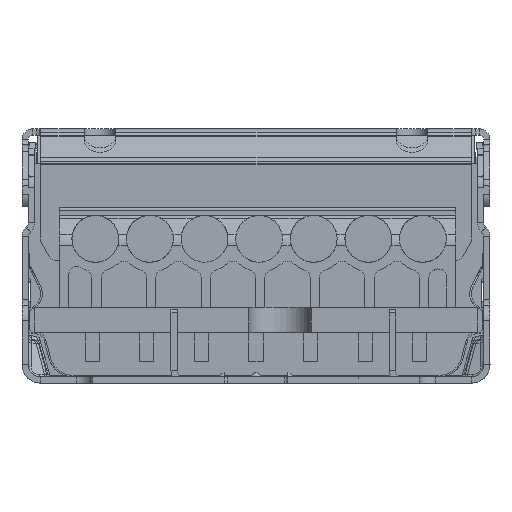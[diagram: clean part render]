
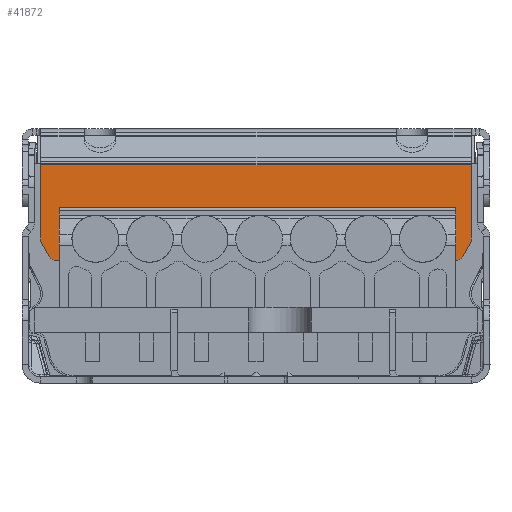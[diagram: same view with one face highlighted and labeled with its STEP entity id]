
A CAD part, left-side view. The second image highlights one B-rep face of the part: STEP entity #41872.
In plain terms, the highlighted planar face has unit normal (-1, 0, 0).
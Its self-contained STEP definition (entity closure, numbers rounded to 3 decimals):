
#7956=CARTESIAN_POINT('',(23.367,-9.8,7.941));
#7957=DIRECTION('',(1.,0.,0.));
#7958=DIRECTION('',(0.,0.,1.));
#7959=AXIS2_PLACEMENT_3D('',#7956,#7957,#7958);
#7978=CARTESIAN_POINT('',(23.367,-5.2,7.941));
#7979=DIRECTION('',(1.,0.,0.));
#7980=DIRECTION('',(0.,1.,0.));
#7981=AXIS2_PLACEMENT_3D('',#7978,#7979,#7980);
#8016=CARTESIAN_POINT('',(23.367,5.2,7.941));
#8017=DIRECTION('',(1.,0.,0.));
#8018=DIRECTION('',(0.,0.,1.));
#8019=AXIS2_PLACEMENT_3D('',#8016,#8017,#8018);
#8038=CARTESIAN_POINT('',(23.367,9.8,7.941));
#8039=DIRECTION('',(1.,0.,0.));
#8040=DIRECTION('',(0.,1.,0.));
#8041=AXIS2_PLACEMENT_3D('',#8038,#8039,#8040);
#8093=DIRECTION('',(0.,-1.,0.));
#8094=VECTOR('',#8093,4.6);
#8095=CARTESIAN_POINT('',(23.367,-5.2,8.141));
#8096=LINE('',#8095,#8094);
#8097=DIRECTION('',(0.,0.,1.));
#8098=VECTOR('',#8097,0.1);
#8099=CARTESIAN_POINT('',(23.367,-5.,7.841));
#8100=LINE('',#8099,#8098);
#8101=DIRECTION('',(0.,-1.,0.));
#8102=VECTOR('',#8101,10.);
#8103=CARTESIAN_POINT('',(23.367,5.,7.841));
#8104=LINE('',#8103,#8102);
#8105=DIRECTION('',(0.,0.,1.));
#8106=VECTOR('',#8105,0.1);
#8107=CARTESIAN_POINT('',(23.367,5.,7.841));
#8108=LINE('',#8107,#8106);
#8109=DIRECTION('',(0.,-1.,0.));
#8110=VECTOR('',#8109,4.6);
#8111=CARTESIAN_POINT('',(23.367,9.8,8.141));
#8112=LINE('',#8111,#8110);
#8113=DIRECTION('',(0.,0.,1.));
#8114=VECTOR('',#8113,0.1);
#8115=CARTESIAN_POINT('',(23.367,10.,7.841));
#8116=LINE('',#8115,#8114);
#8117=DIRECTION('',(0.,-1.,0.));
#8118=VECTOR('',#8117,2.819);
#8119=CARTESIAN_POINT('',(23.367,12.819,7.841));
#8120=LINE('',#8119,#8118);
#8121=CARTESIAN_POINT('',(23.367,12.819,8.341));
#8122=DIRECTION('',(-1.,0.,0.));
#8123=DIRECTION('',(0.,0.866,-0.5));
#8124=AXIS2_PLACEMENT_3D('',#8121,#8122,#8123);
#8126=DIRECTION('',(0.,-0.5,-0.866));
#8127=VECTOR('',#8126,0.963);
#8128=CARTESIAN_POINT('',(23.367,13.733,8.925));
#8129=LINE('',#8128,#8127);
#8130=CARTESIAN_POINT('',(23.367,13.3,9.175));
#8131=DIRECTION('',(-1.,0.,0.));
#8132=DIRECTION('',(0.,1.,0.));
#8133=AXIS2_PLACEMENT_3D('',#8130,#8131,#8132);
#8135=DIRECTION('',(0.,0.,-1.));
#8136=VECTOR('',#8135,4.817);
#8137=CARTESIAN_POINT('',(23.367,13.8,13.993));
#8138=LINE('',#8137,#8136);
#8139=DIRECTION('',(0.,0.,1.));
#8140=VECTOR('',#8139,4.817);
#8141=CARTESIAN_POINT('',(23.367,-13.8,9.175));
#8142=LINE('',#8141,#8140);
#8143=CARTESIAN_POINT('',(23.367,-13.3,9.175));
#8144=DIRECTION('',(-1.,0.,0.));
#8145=DIRECTION('',(0.,-0.866,-0.5));
#8146=AXIS2_PLACEMENT_3D('',#8143,#8144,#8145);
#8148=DIRECTION('',(0.,-0.5,0.866));
#8149=VECTOR('',#8148,0.963);
#8150=CARTESIAN_POINT('',(23.367,-13.252,8.091));
#8151=LINE('',#8150,#8149);
#8152=CARTESIAN_POINT('',(23.367,-12.819,8.341));
#8153=DIRECTION('',(-1.,0.,0.));
#8154=DIRECTION('',(0.,0.,-1.));
#8155=AXIS2_PLACEMENT_3D('',#8152,#8153,#8154);
#8157=DIRECTION('',(0.,-1.,0.));
#8158=VECTOR('',#8157,2.819);
#8159=CARTESIAN_POINT('',(23.367,-10.,7.841));
#8160=LINE('',#8159,#8158);
#8161=DIRECTION('',(0.,0.,1.));
#8162=VECTOR('',#8161,0.1);
#8163=CARTESIAN_POINT('',(23.367,-10.,7.841));
#8164=LINE('',#8163,#8162);
#8165=DIRECTION('',(0.,-1.,0.));
#8166=VECTOR('',#8165,27.6);
#8167=CARTESIAN_POINT('',(23.367,13.8,13.993));
#8168=LINE('',#8167,#8166);
#27337=CARTESIAN_POINT('',(23.367,13.8,13.993));
#27338=CARTESIAN_POINT('',(23.367,-13.8,13.993));
#27339=VERTEX_POINT('',#27337);
#27340=VERTEX_POINT('',#27338);
#27349=CARTESIAN_POINT('',(23.367,5.,7.841));
#27350=CARTESIAN_POINT('',(23.367,-5.,7.841));
#27351=VERTEX_POINT('',#27349);
#27352=VERTEX_POINT('',#27350);
#27369=CARTESIAN_POINT('',(23.367,13.8,9.175));
#27370=VERTEX_POINT('',#27369);
#27371=CARTESIAN_POINT('',(23.367,-13.8,9.175));
#27372=VERTEX_POINT('',#27371);
#27377=CARTESIAN_POINT('',(23.367,12.819,7.841));
#27378=CARTESIAN_POINT('',(23.367,10.,7.841));
#27379=VERTEX_POINT('',#27377);
#27380=VERTEX_POINT('',#27378);
#27381=CARTESIAN_POINT('',(23.367,-10.,7.841));
#27382=CARTESIAN_POINT('',(23.367,-12.819,
7.841));
#27383=VERTEX_POINT('',#27381);
#27384=VERTEX_POINT('',#27382);
#27397=CARTESIAN_POINT('',(23.367,-13.733,
8.925));
#27398=VERTEX_POINT('',#27397);
#27399=CARTESIAN_POINT('',(23.367,-13.252,
8.091));
#27400=VERTEX_POINT('',#27399);
#27405=CARTESIAN_POINT('',(23.367,13.252,8.091));
#27406=VERTEX_POINT('',#27405);
#27407=CARTESIAN_POINT('',(23.367,13.733,8.925));
#27408=VERTEX_POINT('',#27407);
#27409=CARTESIAN_POINT('',(23.367,9.8,8.141));
#27410=CARTESIAN_POINT('',(23.367,5.2,8.141));
#27411=VERTEX_POINT('',#27409);
#27412=VERTEX_POINT('',#27410);
#27413=CARTESIAN_POINT('',(23.367,5.,7.941));
#27414=VERTEX_POINT('',#27413);
#27415=CARTESIAN_POINT('',(23.367,10.,7.941));
#27416=VERTEX_POINT('',#27415);
#27417=CARTESIAN_POINT('',(23.367,-5.2,8.141));
#27418=CARTESIAN_POINT('',(23.367,-9.8,8.141));
#27419=VERTEX_POINT('',#27417);
#27420=VERTEX_POINT('',#27418);
#27421=CARTESIAN_POINT('',(23.367,-10.,7.941));
#27422=VERTEX_POINT('',#27421);
#27423=CARTESIAN_POINT('',(23.367,-5.,7.941));
#27424=VERTEX_POINT('',#27423);
#41842=CARTESIAN_POINT('',(23.367,7.242,14.683));
#41843=DIRECTION('',(1.,0.,0.));
#41844=DIRECTION('',(0.,-1.,0.));
#41845=AXIS2_PLACEMENT_3D('',#41842,#41843,#41844);
#41846=PLANE('',#41845);
#41847=ORIENTED_EDGE('',*,*,#41655,.F.);
#41848=ORIENTED_EDGE('',*,*,#41669,.F.);
#41849=ORIENTED_EDGE('',*,*,#41683,.F.);
#41850=ORIENTED_EDGE('',*,*,#41697,.F.);
#41851=ORIENTED_EDGE('',*,*,#41711,.T.);
#41852=ORIENTED_EDGE('',*,*,#41725,.F.);
#41853=ORIENTED_EDGE('',*,*,#41739,.F.);
#41854=ORIENTED_EDGE('',*,*,#41753,.F.);
#41855=ORIENTED_EDGE('',*,*,#41767,.F.);
#41856=ORIENTED_EDGE('',*,*,#41781,.F.);
#41857=ORIENTED_EDGE('',*,*,#41795,.F.);
#41858=ORIENTED_EDGE('',*,*,#41809,.F.);
#41859=ORIENTED_EDGE('',*,*,#41823,.F.);
#41860=ORIENTED_EDGE('',*,*,#41836,.F.);
#41862=ORIENTED_EDGE('',*,*,#41861,.T.);
#41863=ORIENTED_EDGE('',*,*,#41557,.F.);
#41864=ORIENTED_EDGE('',*,*,#41571,.F.);
#41865=ORIENTED_EDGE('',*,*,#41585,.F.);
#41866=ORIENTED_EDGE('',*,*,#41599,.F.);
#41867=ORIENTED_EDGE('',*,*,#41613,.F.);
#41868=ORIENTED_EDGE('',*,*,#41627,.T.);
#41869=ORIENTED_EDGE('',*,*,#41641,.F.);
#41870=EDGE_LOOP('',(#41847,#41848,#41849,#41850,#41851,#41852,#41853,#41854,
#41855,#41856,#41857,#41858,#41859,#41860,#41862,#41863,#41864,#41865,#41866,
#41867,#41868,#41869));
#41871=FACE_OUTER_BOUND('',#41870,.F.);
#41872=ADVANCED_FACE('',(#41871),#41846,.F.);
#7960=CIRCLE('',#7959,0.2);
#7982=CIRCLE('',#7981,0.2);
#8020=CIRCLE('',#8019,0.2);
#8042=CIRCLE('',#8041,0.2);
#8125=CIRCLE('',#8124,0.5);
#8134=CIRCLE('',#8133,0.5);
#8147=CIRCLE('',#8146,0.5);
#8156=CIRCLE('',#8155,0.5);
#41557=EDGE_CURVE('',#27372,#27340,#8142,.T.);
#41571=EDGE_CURVE('',#27398,#27372,#8147,.T.);
#41585=EDGE_CURVE('',#27400,#27398,#8151,.T.);
#41599=EDGE_CURVE('',#27384,#27400,#8156,.T.);
#41613=EDGE_CURVE('',#27383,#27384,#8160,.T.);
#41627=EDGE_CURVE('',#27383,#27422,#8164,.T.);
#41641=EDGE_CURVE('',#27420,#27422,#7960,.T.);
#41655=EDGE_CURVE('',#27419,#27420,#8096,.T.);
#41669=EDGE_CURVE('',#27424,#27419,#7982,.T.);
#41683=EDGE_CURVE('',#27352,#27424,#8100,.T.);
#41697=EDGE_CURVE('',#27351,#27352,#8104,.T.);
#41711=EDGE_CURVE('',#27351,#27414,#8108,.T.);
#41725=EDGE_CURVE('',#27412,#27414,#8020,.T.);
#41739=EDGE_CURVE('',#27411,#27412,#8112,.T.);
#41753=EDGE_CURVE('',#27416,#27411,#8042,.T.);
#41767=EDGE_CURVE('',#27380,#27416,#8116,.T.);
#41781=EDGE_CURVE('',#27379,#27380,#8120,.T.);
#41795=EDGE_CURVE('',#27406,#27379,#8125,.T.);
#41809=EDGE_CURVE('',#27408,#27406,#8129,.T.);
#41823=EDGE_CURVE('',#27370,#27408,#8134,.T.);
#41836=EDGE_CURVE('',#27339,#27370,#8138,.T.);
#41861=EDGE_CURVE('',#27339,#27340,#8168,.T.);
